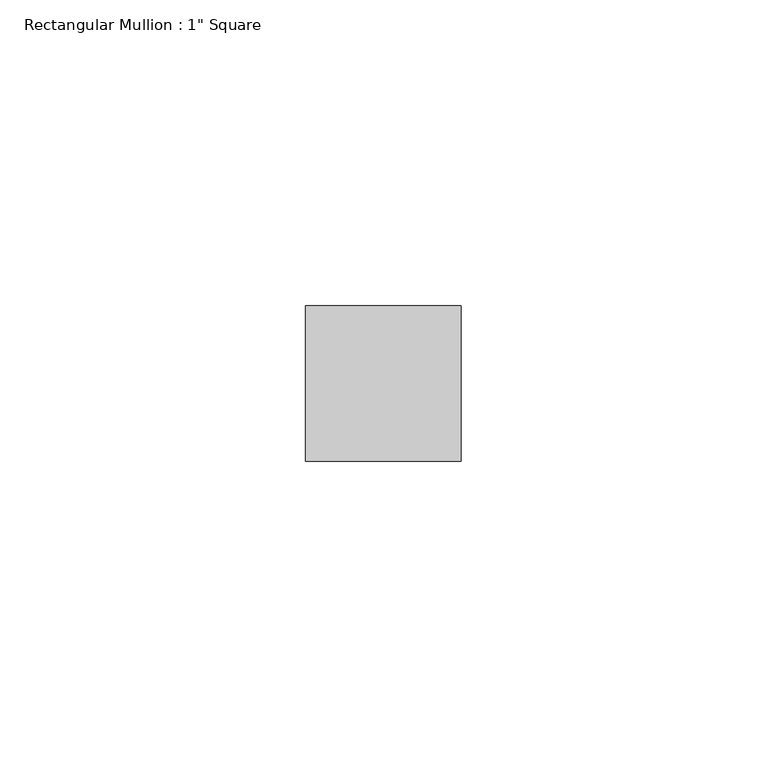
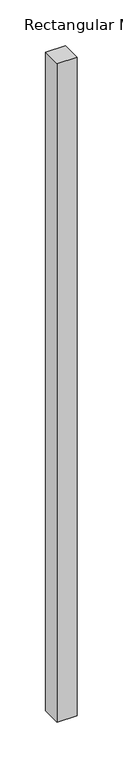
"""IFC4 building model written with IfcOpenShell, lengths in millimetres: member geometry."""

from ifc_helpers import new_model, si_unit, frame, origin, place, context, project, spatial, polyline, outline, extrude, source, transform, mapped, element, save


def member_398e5ff5(model_context):
    return source(origin(), model_context, "Body", "SweptSolid", [
        extrude(outline(polyline([(12.7, 12.7), (12.7, -12.7), (-12.7, -12.7), (-12.7, 12.7), (12.7, 12.7)])), frame((0.0, 0.0, -878.667917), z_axis=(0.0, 0.0, 1.0), x_axis=(1.0, 0.0, 0.0)), (0.0, 0.0, 1.0), 878.667917),
    ])


if __name__ == "__main__":
    model = new_model("IFC4")
    model_context = context("Model", 3, world=origin())
    ifc_project = project(units=[si_unit("LENGTHUNIT", "METRE", prefix="MILLI")], contexts=[model_context])
    site = spatial("IfcSite", under=ifc_project)
    building = spatial("IfcBuilding", under=site)
    placement = place(None, origin())
    member_shape = member_398e5ff5(model_context)
    element("IfcMember", 1, ObjectType="Rectangular Mullion : 1\" Square", at=placement, inside=building, context=model_context, shape_type="MappedRepresentation", body=[
        mapped(member_shape, transform((0.0, 0.0, 0.0), x_axis=(1.0, 0.0, 0.0), y_axis=(0.0, 1.0, 0.0), z_axis=(0.0, 0.0, 1.0))),
    ])
    save(model, "model.ifc")
